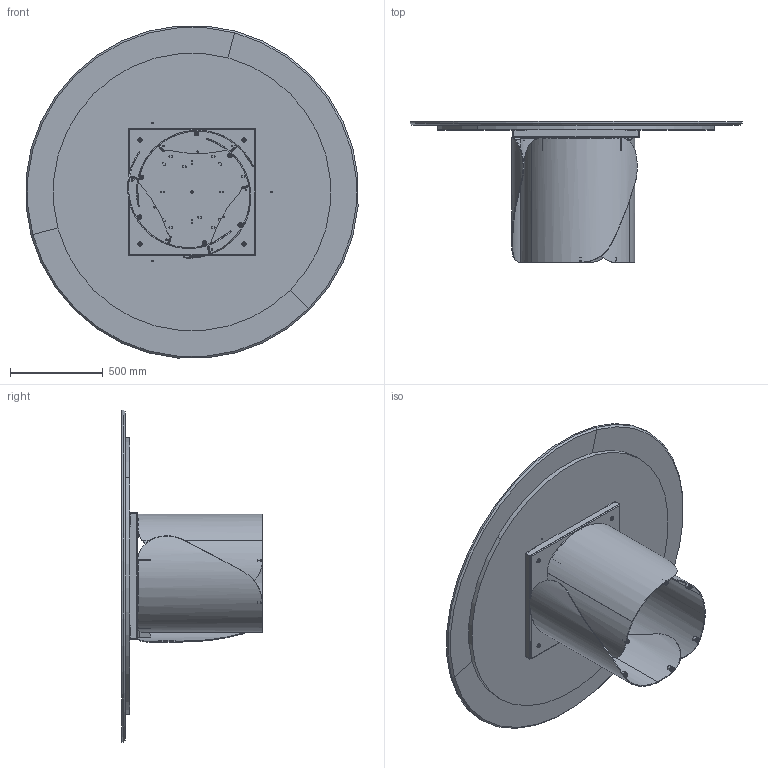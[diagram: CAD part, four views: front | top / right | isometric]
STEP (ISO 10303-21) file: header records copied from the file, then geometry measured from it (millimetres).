
FILE_DESCRIPTION (( 'STEP AP203' ), '1' );
FILE_NAME ('ON13M.STEP', '2024-08-06T13:32:42', ( '' ), ( '' ), 'SwSTEP 2.0', 'SolidWorks 2022', '' );
FILE_SCHEMA (( 'CONFIG_CONTROL_DESIGN' ));
Length unit declared in the file: millimetre
Products named in the file (17): COLLO BASE ONDA SINGOLA CON FERRAMENTA; rondella M8_8X24; M0X-00- D. piani marmo_D.1800; COLLO TELAIO UNIVERSALE TTAV0801 CON FERRAMENTA_MTG TOP LEGNO-MARMO-KING; TTAV0801 TELAIO UNIVERSALE TONDO-PIASTRINA; OND000000_03-00-LAMIERA CURVATA PRINCIPALE_OND00000X-00-ONDA BASE GREZZA PROTOTIPO; OND000000-03-ONDA BASE GREZZA; M8xXXmm_M8x55mm; M8xXXmm_M8x20mm; ON13M; TTAV0801-02-TELAIO UNIVERSALE TONDO-VASSOIO; M0XMXX-00-Piani Rotondi in marmo 2024_1800; TRU0000X-00-SOTTO PIANO D.XXXXmm_TRU00006 D.150cm; OND000000_02-00-CILINDRO DI FISSAGGIO Ø25X17 M8; PIEDINO PER ONDA; TTAV0801-02-TELAIO UNIVERSALE TONDO; OND000000_01-00-PIASTRA SUPERIORE BASE ONDA
Assembly tree (52 placements, depth 4):
  ON13M
    COLLO TELAIO UNIVERSALE TTAV0801 CON FERRAMENTA_MTG TOP LEGNO-MARMO-KING
      TTAV0801-02-TELAIO UNIVERSALE TONDO
        TTAV0801-02-TELAIO UNIVERSALE TONDO-VASSOIO
        TTAV0801 TELAIO UNIVERSALE TONDO-PIASTRINA  x4
      rondella M8_8X24  x4
      M8xXXmm_M8x55mm  x4
    COLLO BASE ONDA SINGOLA CON FERRAMENTA  x3
      OND000000-03-ONDA BASE GREZZA
        OND000000_03-00-LAMIERA CURVATA PRINCIPALE_OND00000X-00-ONDA BASE GREZZA PROTOTIPO
        OND000000_01-00-PIASTRA SUPERIORE BASE ONDA
        OND000000_02-00-CILINDRO DI FISSAGGIO Ø25X17 M8  x2
      PIEDINO PER ONDA
    rondella M8_8X24  x12
    M8xXXmm_M8x20mm  x12
    M0XMXX-00-Piani Rotondi in marmo 2024_1800
      TRU0000X-00-SOTTO PIANO D.XXXXmm_TRU00006 D.150cm
      M0X-00- D. piani marmo_D.1800
Bounding box: 1793.15 x 761 x 1793.15 mm (x, y, z)
Volume: 105544192.6 mm3; surface area: 13573726.8 mm2
Topology: 65 solids, 65 shells, 1750 faces, 4128 edges, 2530 vertices
Faces by surface type: plane 686, cylinder 588, torus 216, cone 200, bspline 60
Entity records: 22063 total; most frequent: CARTESIAN_POINT 4976, DIRECTION 3086, ORIENTED_EDGE 2906, EDGE_CURVE 1453, AXIS2_PLACEMENT_3D 1138, VERTEX_POINT 932, LINE 810, VECTOR 810
